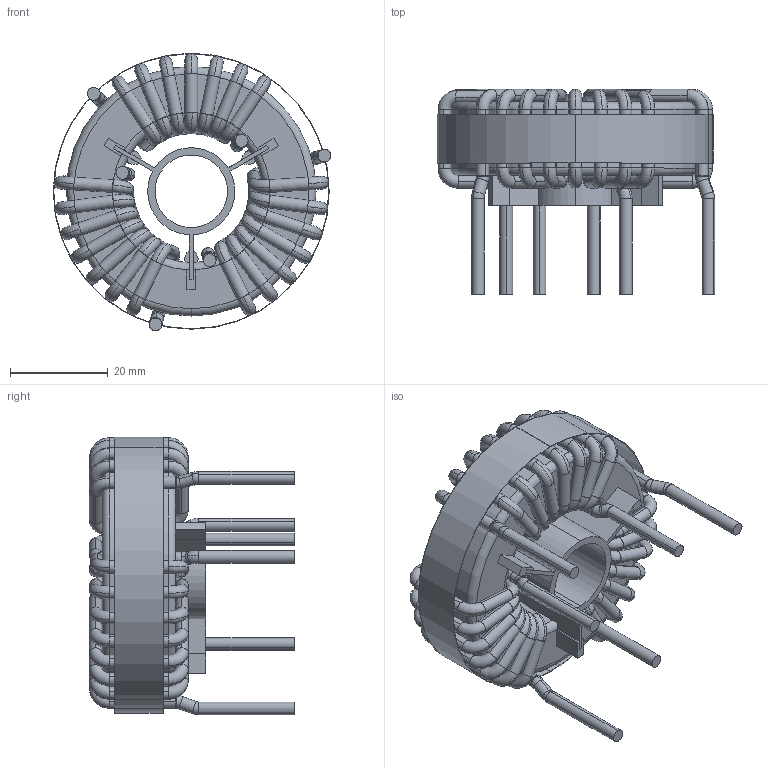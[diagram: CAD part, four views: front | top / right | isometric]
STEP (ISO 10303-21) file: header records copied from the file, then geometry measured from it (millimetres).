
FILE_DESCRIPTION (( 'STEP AP203' ), '1' );
FILE_NAME ('TFR-551U-40A-SW.STEP', '2020-11-26T14:12:21', ( 'Windows User' ), ( '' ), 'SwSTEP 2.0', 'SolidWorks 2015', '' );
FILE_SCHEMA (( 'CONFIG_CONTROL_DESIGN' ));
Length unit declared in the file: inch
Products named in the file (5): TFR-551U-40A-SPACER-SW; TFR-551U-40A-EPOXY-SW; TFR-551U-40A-COIL-SW; TFR-551U-40A-SW; TFR-551U-40A-CORE-SW
Assembly tree (4 placements, depth 2):
  TFR-551U-40A-SW
    TFR-551U-40A-CORE-SW
    TFR-551U-40A-SPACER-SW
    TFR-551U-40A-EPOXY-SW
    TFR-551U-40A-COIL-SW
Bounding box: 56.76 x 41.98 x 56.76 mm (x, y, z)
Volume: 30659.7 mm3; surface area: 26266.1 mm2
Topology: 69 solids, 69 shells, 745 faces, 1795 edges, 1188 vertices
Faces by surface type: cylinder 335, torus 212, plane 192, bspline 6
Entity records: 22990 total; most frequent: DIRECTION 4585, CARTESIAN_POINT 3861, ORIENTED_EDGE 3590, AXIS2_PLACEMENT_3D 2056, EDGE_CURVE 1795, CIRCLE 1310, VERTEX_POINT 1188, EDGE_LOOP 751
